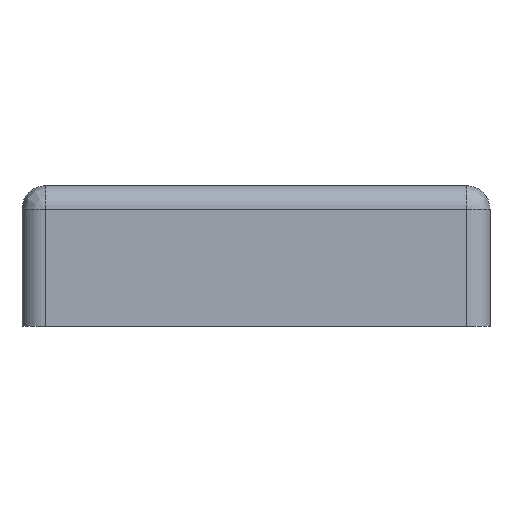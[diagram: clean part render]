
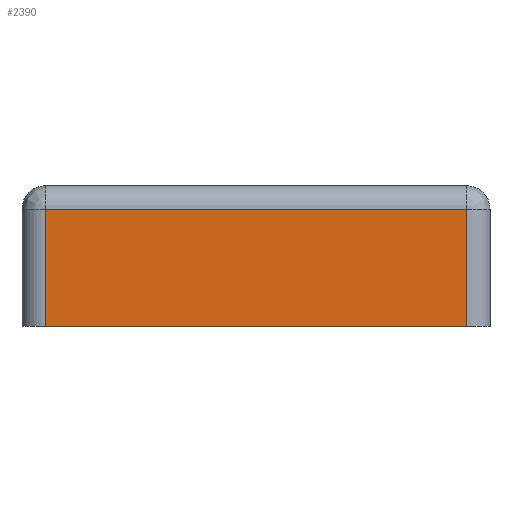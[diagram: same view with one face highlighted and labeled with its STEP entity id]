
A CAD part, left-side view. The second image highlights one B-rep face of the part: STEP entity #2390.
In plain terms, the highlighted planar face has unit normal (-1, 0, 0).
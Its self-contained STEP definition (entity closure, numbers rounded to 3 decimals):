
#98 = VECTOR ( 'NONE', #927, 1000. ) ;
#146 = CARTESIAN_POINT ( 'NONE',  ( -20., 18., 0. ) ) ;
#430 = EDGE_CURVE ( 'NONE', #2822, #2983, #723, .T. ) ;
#469 = AXIS2_PLACEMENT_3D ( 'NONE', #3102, #3340, #1979 ) ;
#503 = EDGE_CURVE ( 'NONE', #2382, #1292, #2161, .T. ) ;
#508 = EDGE_LOOP ( 'NONE', ( #924, #1641, #1752, #1221 ) ) ;
#579 = CARTESIAN_POINT ( 'NONE',  ( -20., 18., 10. ) ) ;
#586 = CARTESIAN_POINT ( 'NONE',  ( -20., 18., 0. ) ) ;
#723 = LINE ( 'NONE', #146, #2340 ) ;
#733 = PLANE ( 'NONE',  #469 ) ;
#766 = DIRECTION ( 'NONE',  ( 0., 1., 0. ) ) ;
#873 = DIRECTION ( 'NONE',  ( 0., 0., 1. ) ) ;
#924 = ORIENTED_EDGE ( 'NONE', *, *, #1940, .F. ) ;
#927 = DIRECTION ( 'NONE',  ( 0., 1., 0. ) ) ;
#1108 = EDGE_CURVE ( 'NONE', #2822, #2382, #2315, .T. ) ;
#1221 = ORIENTED_EDGE ( 'NONE', *, *, #503, .T. ) ;
#1292 = VERTEX_POINT ( 'NONE', #2418 ) ;
#1439 = VECTOR ( 'NONE', #873, 1000. ) ;
#1497 = CARTESIAN_POINT ( 'NONE',  ( -20., -18., 10. ) ) ;
#1641 = ORIENTED_EDGE ( 'NONE', *, *, #430, .F. ) ;
#1698 = CARTESIAN_POINT ( 'NONE',  ( -20., -18., 10. ) ) ;
#1752 = ORIENTED_EDGE ( 'NONE', *, *, #1108, .T. ) ;
#1940 = EDGE_CURVE ( 'NONE', #2983, #1292, #2338, .T. ) ;
#1979 = DIRECTION ( 'NONE',  ( 0., 0., 1. ) ) ;
#2161 = LINE ( 'NONE', #1497, #98 ) ;
#2315 = LINE ( 'NONE', #3446, #1439 ) ;
#2338 = LINE ( 'NONE', #579, #3290 ) ;
#2340 = VECTOR ( 'NONE', #766, 1000. ) ;
#2370 = CARTESIAN_POINT ( 'NONE',  ( -20., -18., 0. ) ) ;
#2382 = VERTEX_POINT ( 'NONE', #1698 ) ;
#2390 = ADVANCED_FACE ( 'NONE', ( #2781 ), #733, .T. ) ;
#2418 = CARTESIAN_POINT ( 'NONE',  ( -20., 18., 10. ) ) ;
#2781 = FACE_OUTER_BOUND ( 'NONE', #508, .T. ) ;
#2822 = VERTEX_POINT ( 'NONE', #2370 ) ;
#2908 = DIRECTION ( 'NONE',  ( 0., 0., 1. ) ) ;
#2983 = VERTEX_POINT ( 'NONE', #586 ) ;
#3102 = CARTESIAN_POINT ( 'NONE',  ( -20., -18., 10. ) ) ;
#3290 = VECTOR ( 'NONE', #2908, 1000. ) ;
#3340 = DIRECTION ( 'NONE',  ( -1., 0., 0. ) ) ;
#3446 = CARTESIAN_POINT ( 'NONE',  ( -20., -18., 10. ) ) ;
